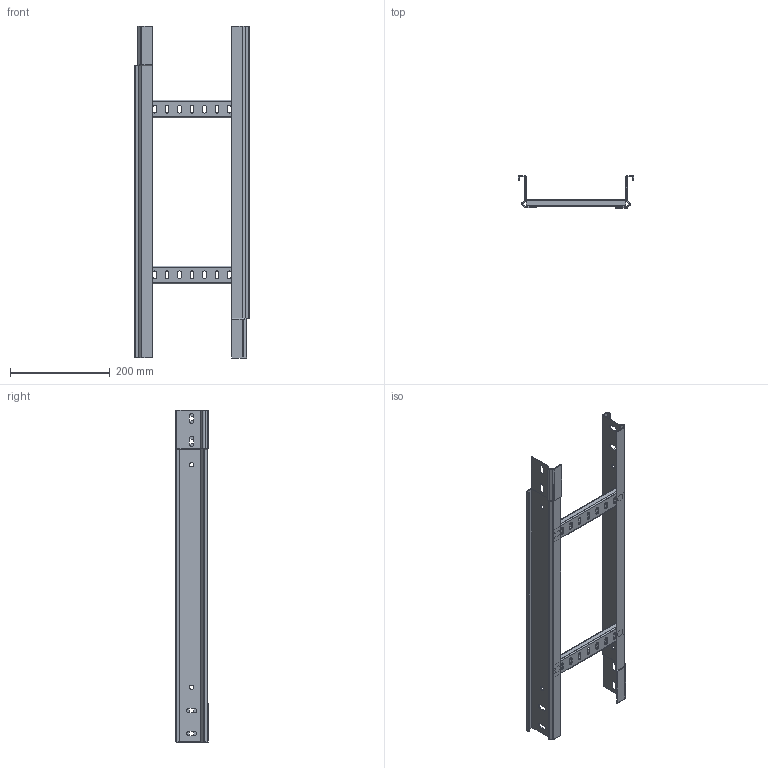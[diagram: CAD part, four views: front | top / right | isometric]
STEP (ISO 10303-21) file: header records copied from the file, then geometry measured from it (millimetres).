
FILE_DESCRIPTION (( 'STEP AP203' ), '1' );
FILE_NAME ('200X60x1,2.step', '2023-08-01T07:29:22', ( '' ), ( '' ), 'SwSTEP 2.0', 'SolidWorks 2022', '' );
FILE_SCHEMA (( 'CONFIG_CONTROL_DESIGN' ));
Length unit declared in the file: millimetre
Products named in the file (3): Travesaño RAT35 FER GS_200; Montante FER GS_60x1,5 0,6M; 200X60x1,2
Assembly tree (4 placements, depth 2):
  200X60x1,2
    Montante FER GS_60x1,5 0,6M  x2
    Travesaño RAT35 FER GS_200  x2
Bounding box: 232 x 64.5 x 667 mm (x, y, z)
Volume: 39900.6 mm3; surface area: 343973.7 mm2
Topology: 2 solids, 6 shells, 364 faces, 964 edges, 618 vertices
Faces by surface type: plane 212, cylinder 116, torus 32, bspline 4
Entity records: 6465 total; most frequent: CARTESIAN_POINT 1425, DIRECTION 1025, ORIENTED_EDGE 948, EDGE_CURVE 482, AXIS2_PLACEMENT_3D 373, VERTEX_POINT 309, VECTOR 279, LINE 279
